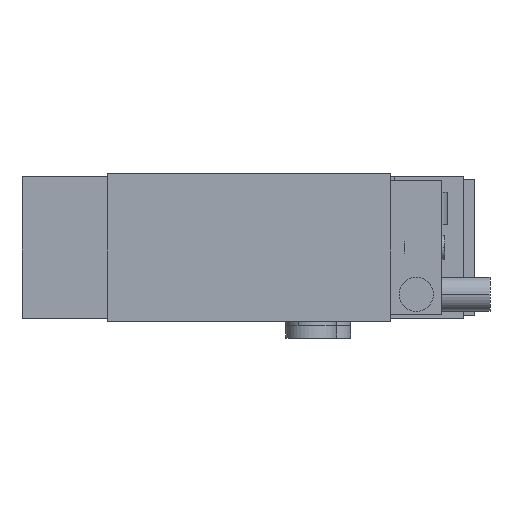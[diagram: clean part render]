
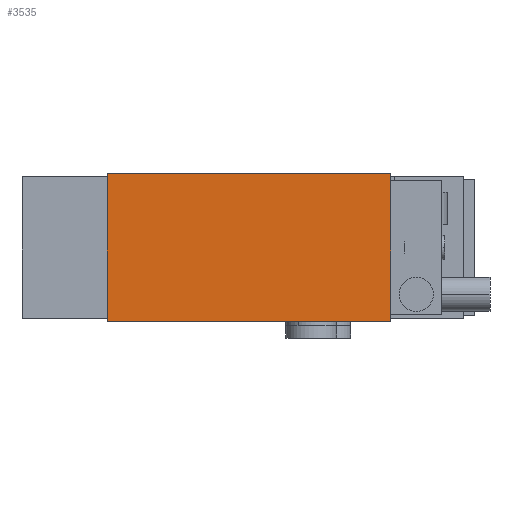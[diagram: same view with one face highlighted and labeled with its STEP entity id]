
A CAD part, front view. The second image highlights one B-rep face of the part: STEP entity #3535.
In plain terms, the highlighted planar face has unit normal (0, -1, 0).
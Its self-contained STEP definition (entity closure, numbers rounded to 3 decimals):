
#1871 = DIRECTION ( 'NONE',  ( 1., 0., 0. ) ) ;
#2355 = VECTOR ( 'NONE', #10191, 1000. ) ;
#2966 = VERTEX_POINT ( 'NONE', #9118 ) ;
#3535 = ADVANCED_FACE ( 'NONE', ( #13995 ), #8596, .T. ) ;
#3777 = VECTOR ( 'NONE', #4487, 1000. ) ;
#4487 = DIRECTION ( 'NONE',  ( 0., 0., -1. ) ) ;
#5007 = LINE ( 'NONE', #13808, #12990 ) ;
#5090 = ORIENTED_EDGE ( 'NONE', *, *, #10969, .T. ) ;
#6446 = VERTEX_POINT ( 'NONE', #12144 ) ;
#7516 = VERTEX_POINT ( 'NONE', #13502 ) ;
#7773 = LINE ( 'NONE', #11246, #3777 ) ;
#8596 = PLANE ( 'NONE',  #10002 ) ;
#8931 = VECTOR ( 'NONE', #9695, 1000. ) ;
#9118 = CARTESIAN_POINT ( 'NONE',  ( -25., -185.85, 26. ) ) ;
#9695 = DIRECTION ( 'NONE',  ( 0., 0., 1. ) ) ;
#10002 = AXIS2_PLACEMENT_3D ( 'NONE', #13885, #14103, #20778 ) ;
#10084 = CARTESIAN_POINT ( 'NONE',  ( -25., -185.85, 26. ) ) ;
#10191 = DIRECTION ( 'NONE',  ( -1., 0., 0. ) ) ;
#10969 = EDGE_CURVE ( 'NONE', #6446, #7516, #18380, .T. ) ;
#11246 = CARTESIAN_POINT ( 'NONE',  ( -25., -185.85, 26. ) ) ;
#11850 = ORIENTED_EDGE ( 'NONE', *, *, #18649, .T. ) ;
#11899 = EDGE_CURVE ( 'NONE', #7516, #2966, #15016, .T. ) ;
#11926 = CARTESIAN_POINT ( 'NONE',  ( -25., -185.85, -26. ) ) ;
#12144 = CARTESIAN_POINT ( 'NONE',  ( 75., -185.85, -26. ) ) ;
#12990 = VECTOR ( 'NONE', #1871, 1000. ) ;
#13062 = CARTESIAN_POINT ( 'NONE',  ( 75., -185.85, 26. ) ) ;
#13502 = CARTESIAN_POINT ( 'NONE',  ( 75., -185.85, 26. ) ) ;
#13808 = CARTESIAN_POINT ( 'NONE',  ( -25., -185.85, -26. ) ) ;
#13885 = CARTESIAN_POINT ( 'NONE',  ( 0., -185.85, 0. ) ) ;
#13995 = FACE_OUTER_BOUND ( 'NONE', #22124, .T. ) ;
#14103 = DIRECTION ( 'NONE',  ( 0., -1., 0. ) ) ;
#14819 = ORIENTED_EDGE ( 'NONE', *, *, #15508, .T. ) ;
#15016 = LINE ( 'NONE', #10084, #2355 ) ;
#15508 = EDGE_CURVE ( 'NONE', #21464, #6446, #5007, .T. ) ;
#16287 = ORIENTED_EDGE ( 'NONE', *, *, #11899, .T. ) ;
#18380 = LINE ( 'NONE', #13062, #8931 ) ;
#18649 = EDGE_CURVE ( 'NONE', #2966, #21464, #7773, .T. ) ;
#20778 = DIRECTION ( 'NONE',  ( 0., 0., -1. ) ) ;
#21464 = VERTEX_POINT ( 'NONE', #11926 ) ;
#22124 = EDGE_LOOP ( 'NONE', ( #11850, #14819, #5090, #16287 ) ) ;
